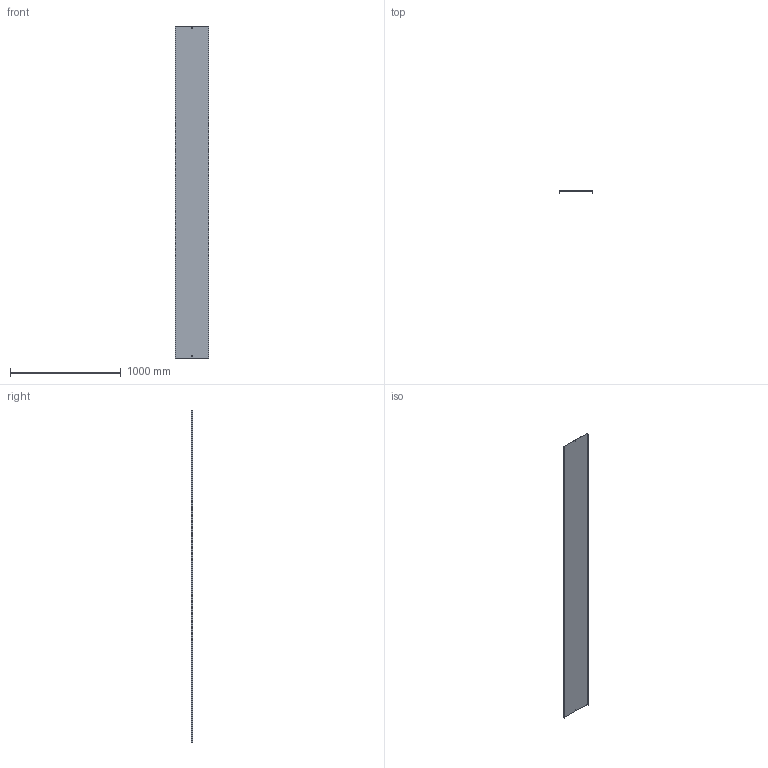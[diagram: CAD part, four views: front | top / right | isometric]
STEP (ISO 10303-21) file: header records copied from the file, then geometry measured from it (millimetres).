
FILE_DESCRIPTION (( 'STEP AP214' ), '1' );
FILE_NAME ('OCF_300.step', '2025-07-16T09:10:01', ( '' ), ( '' ), 'SwSTEP 2.0', 'SolidWorks 2023', '' );
FILE_SCHEMA (( 'AUTOMOTIVE_DESIGN' ));
Length unit declared in the file: millimetre
Products named in the file (1): OCF_300
Bounding box: 302 x 17 x 3000 mm (x, y, z)
Volume: 1001916 mm3; surface area: 2010552 mm2
Topology: 1 solids, 1 shells, 18 faces, 48 edges, 32 vertices
Faces by surface type: plane 18
Entity records: 583 total; most frequent: CARTESIAN_POINT 99, ORIENTED_EDGE 96, DIRECTION 86, VECTOR 48, EDGE_CURVE 48, LINE 48, VERTEX_POINT 32, EDGE_LOOP 22
